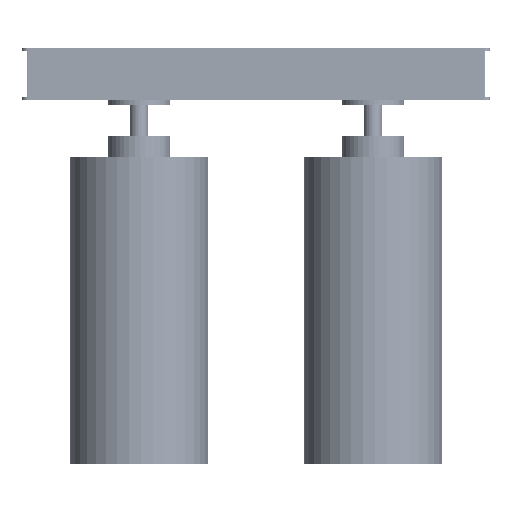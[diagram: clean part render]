
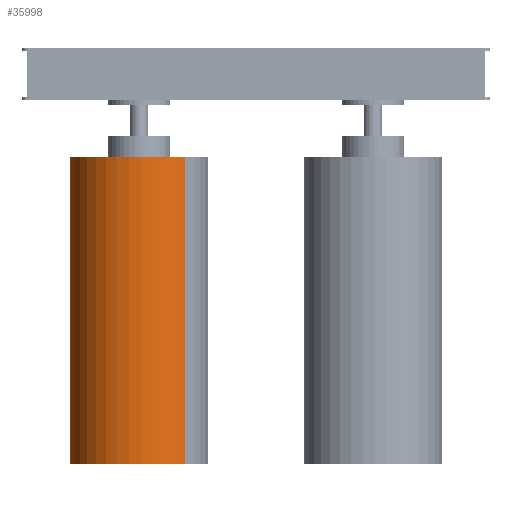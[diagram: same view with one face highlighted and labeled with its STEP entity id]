
A CAD part, left-side view. The second image highlights one B-rep face of the part: STEP entity #35998.
In plain terms, the highlighted cylindrical face has radius 133.5 mm (diameter 267 mm), a partial arc.
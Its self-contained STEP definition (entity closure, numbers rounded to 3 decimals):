
#2579 = VERTEX_POINT ( 'NONE', #103640 ) ;
#5970 = DIRECTION ( 'NONE',  ( 0., 0., 1. ) ) ;
#7830 = LINE ( 'NONE', #100058, #51128 ) ;
#11730 = EDGE_CURVE ( 'NONE', #115162, #2579, #135001, .T. ) ;
#23988 = AXIS2_PLACEMENT_3D ( 'NONE', #63011, #74372, #75870 ) ;
#29456 = CARTESIAN_POINT ( 'NONE',  ( -716.956, 155.574, 1297.5 ) ) ;
#35998 = ADVANCED_FACE ( 'NONE', ( #63761 ), #62266, .T. ) ;
#38564 = CIRCLE ( 'NONE', #45801, 133.5 ) ;
#40359 = EDGE_CURVE ( 'NONE', #115162, #101958, #99097, .T. ) ;
#40429 = ORIENTED_EDGE ( 'NONE', *, *, #11730, .F. ) ;
#45801 = AXIS2_PLACEMENT_3D ( 'NONE', #29456, #5970, #108771 ) ;
#47716 = VECTOR ( 'NONE', #145182, 1000. ) ;
#50758 = CARTESIAN_POINT ( 'NONE',  ( -617.378, 244.492, 1887.5 ) ) ;
#51128 = VECTOR ( 'NONE', #146143, 1000. ) ;
#52429 = DIRECTION ( 'NONE',  ( 0.746, 0.666, 0. ) ) ;
#53884 = AXIS2_PLACEMENT_3D ( 'NONE', #74377, #120428, #52429 ) ;
#55300 = ORIENTED_EDGE ( 'NONE', *, *, #40359, .T. ) ;
#57626 = VERTEX_POINT ( 'NONE', #94487 ) ;
#57824 = EDGE_CURVE ( 'NONE', #101958, #57626, #38564, .T. ) ;
#62266 = CYLINDRICAL_SURFACE ( 'NONE', #53884, 133.5 ) ;
#63011 = CARTESIAN_POINT ( 'NONE',  ( -716.956, 155.574, 1887.5 ) ) ;
#63761 = FACE_OUTER_BOUND ( 'NONE', #111028, .T. ) ;
#71604 = CARTESIAN_POINT ( 'NONE',  ( -617.378, 244.492, 1887.5 ) ) ;
#74372 = DIRECTION ( 'NONE',  ( 0., 0., 1. ) ) ;
#74377 = CARTESIAN_POINT ( 'NONE',  ( -716.956, 155.574, 1887.5 ) ) ;
#75870 = DIRECTION ( 'NONE',  ( -0.746, -0.666, 0. ) ) ;
#94487 = CARTESIAN_POINT ( 'NONE',  ( -816.535, 66.656, 1297.5 ) ) ;
#99097 = LINE ( 'NONE', #50758, #47716 ) ;
#100058 = CARTESIAN_POINT ( 'NONE',  ( -816.535, 66.656, 1887.5 ) ) ;
#100939 = ORIENTED_EDGE ( 'NONE', *, *, #57824, .T. ) ;
#101958 = VERTEX_POINT ( 'NONE', #118451 ) ;
#103640 = CARTESIAN_POINT ( 'NONE',  ( -816.535, 66.656, 1887.5 ) ) ;
#108771 = DIRECTION ( 'NONE',  ( -0.746, -0.666, 0. ) ) ;
#111028 = EDGE_LOOP ( 'NONE', ( #135224, #40429, #55300, #100939 ) ) ;
#115162 = VERTEX_POINT ( 'NONE', #71604 ) ;
#118451 = CARTESIAN_POINT ( 'NONE',  ( -617.378, 244.492, 1297.5 ) ) ;
#120428 = DIRECTION ( 'NONE',  ( 0., 0., -1. ) ) ;
#135001 = CIRCLE ( 'NONE', #23988, 133.5 ) ;
#135224 = ORIENTED_EDGE ( 'NONE', *, *, #143167, .F. ) ;
#143167 = EDGE_CURVE ( 'NONE', #2579, #57626, #7830, .T. ) ;
#145182 = DIRECTION ( 'NONE',  ( 0., 0., -1. ) ) ;
#146143 = DIRECTION ( 'NONE',  ( 0., 0., -1. ) ) ;
